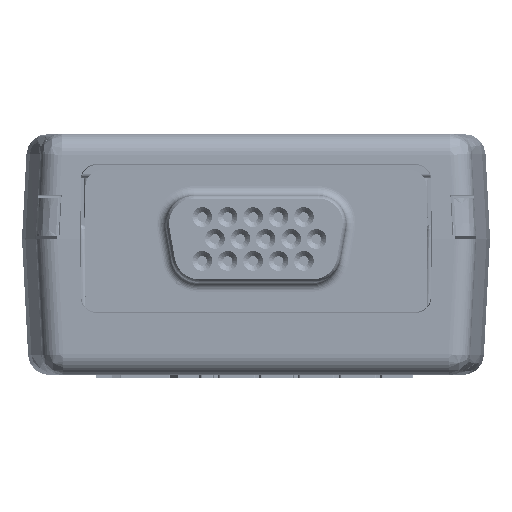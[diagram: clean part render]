
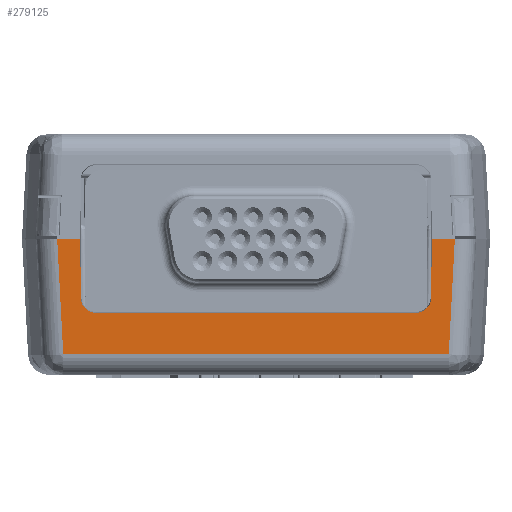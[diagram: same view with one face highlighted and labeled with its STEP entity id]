
A CAD part, left-side view. The second image highlights one B-rep face of the part: STEP entity #279125.
In plain terms, the highlighted planar face has unit normal (-1, 0, -0.018) as drawn and (0, 1, -0.017) by its records, which use the part's own axes.
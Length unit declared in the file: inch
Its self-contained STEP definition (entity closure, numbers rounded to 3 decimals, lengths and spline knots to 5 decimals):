
#200 = VERTEX_POINT ( 'NONE', #112768 ) ;
#1927 = CARTESIAN_POINT ( 'NONE',  ( 0., 6.29, 0.30906 ) ) ;
#2175 = ORIENTED_EDGE ( 'NONE', *, *, #15595, .T. ) ;
#5522 = CARTESIAN_POINT ( 'NONE',  ( 25.09876, 6.28284, -0.10135 ) ) ;
#15016 = CARTESIAN_POINT ( 'NONE',  ( 23.80214, 6.28579, 0.06809 ) ) ;
#15595 = EDGE_CURVE ( 'NONE', #144275, #190273, #301658, .T. ) ;
#18077 = CARTESIAN_POINT ( 'NONE',  ( 23.83216, 6.28541, 0.046 ) ) ;
#19779 = CARTESIAN_POINT ( 'NONE',  ( 23.79057, 6.2864, 0.1025 ) ) ;
#21150 = VECTOR ( 'NONE', #72855, 39.37008 ) ;
#22667 = ORIENTED_EDGE ( 'NONE', *, *, #150824, .T. ) ;
#28020 = ORIENTED_EDGE ( 'NONE', *, *, #203920, .T. ) ;
#28436 = CARTESIAN_POINT ( 'NONE',  ( 0., 6.28284, -0.10135 ) ) ;
#28841 = CARTESIAN_POINT ( 'NONE',  ( 23.70773, 6.29, 0.30906 ) ) ;
#34542 = VERTEX_POINT ( 'NONE', #45604 ) ;
#37587 = CARTESIAN_POINT ( 'NONE',  ( 23.81751, 6.28552, 0.05216 ) ) ;
#39193 = ORIENTED_EDGE ( 'NONE', *, *, #116417, .F. ) ;
#42062 = VECTOR ( 'NONE', #76592, 39.37008 ) ;
#45604 = CARTESIAN_POINT ( 'NONE',  ( 23.84707, 6.28541, 0.046 ) ) ;
#49038 = CARTESIAN_POINT ( 'NONE',  ( 24.99569, 6.28544, 0.04754 ) ) ;
#51194 = CARTESIAN_POINT ( 'NONE',  ( 0., 6.29, 0.30906 ) ) ;
#54040 = DIRECTION ( 'NONE',  ( 0., 0.017, 1. ) ) ;
#54793 = CARTESIAN_POINT ( 'NONE',  ( 0., 6.29, 0.30897 ) ) ;
#58281 = CARTESIAN_POINT ( 'NONE',  ( 0., 6.29, 0.30906 ) ) ;
#58412 = VERTEX_POINT ( 'NONE', #207807 ) ;
#61043 = CARTESIAN_POINT ( 'NONE',  ( 23.79808, 6.2859, 0.07424 ) ) ;
#61965 = VECTOR ( 'NONE', #138932, 39.37008 ) ;
#62537 = VECTOR ( 'NONE', #54040, 39.37008 ) ;
#64077 = CARTESIAN_POINT ( 'NONE',  ( 23.79636, 6.28596, 0.07749 ) ) ;
#64735 = ORIENTED_EDGE ( 'NONE', *, *, #161486, .F. ) ;
#67586 = ORIENTED_EDGE ( 'NONE', *, *, #206827, .T. ) ;
#71297 = LINE ( 'NONE', #51194, #42062 ) ;
#71975 = LINE ( 'NONE', #1927, #134036 ) ;
#72441 = CARTESIAN_POINT ( 'NONE',  ( 25.01827, 6.28565, 0.05994 ) ) ;
#72855 = DIRECTION ( 'NONE',  ( -0.052, 0.017, 0.998 ) ) ;
#74574 = CARTESIAN_POINT ( 'NONE',  ( 23.72924, 6.28284, -0.10135 ) ) ;
#76592 = DIRECTION ( 'NONE',  ( 1., 0., 0. ) ) ;
#77796 = B_SPLINE_CURVE_WITH_KNOTS ( 'NONE', 3,
 ( #118414, #282007, #49038, #259532, #186882, #232959, #72441, #167542, #141942, #214479 ),
 .UNSPECIFIED., .F., .F.,
 ( 4, 2, 2, 2, 4 ),
 ( 0., 0.00056, 0.00084, 0.00112, 0.00224 ),
 .UNSPECIFIED. ) ;
#78176 = EDGE_CURVE ( 'NONE', #58412, #97525, #99095, .T. ) ;
#80201 = DIRECTION ( 'NONE',  ( 0., 1., -0.017 ) ) ;
#80634 = DIRECTION ( 'NONE',  ( -1., 0., 0. ) ) ;
#88706 = CARTESIAN_POINT ( 'NONE',  ( 23.79049, 6.29, 0.30906 ) ) ;
#89819 = CARTESIAN_POINT ( 'NONE',  ( 23.79049, 6.29, 0.30906 ) ) ;
#92083 = CARTESIAN_POINT ( 'NONE',  ( 25.03751, 6.29, 0.30906 ) ) ;
#97525 = VERTEX_POINT ( 'NONE', #92083 ) ;
#99095 = LINE ( 'NONE', #102930, #62537 ) ;
#101522 = EDGE_CURVE ( 'NONE', #34542, #280755, #285120, .T. ) ;
#102746 = EDGE_CURVE ( 'NONE', #280755, #58412, #77796, .T. ) ;
#102930 = CARTESIAN_POINT ( 'NONE',  ( 25.03743, 6.2864, 0.1025 ) ) ;
#106313 = VERTEX_POINT ( 'NONE', #149703 ) ;
#112768 = CARTESIAN_POINT ( 'NONE',  ( 25.12027, 6.29, 0.30906 ) ) ;
#116417 = EDGE_CURVE ( 'NONE', #144275, #200, #273982, .T. ) ;
#118414 = CARTESIAN_POINT ( 'NONE',  ( 24.98093, 6.28541, 0.046 ) ) ;
#120297 = DIRECTION ( 'NONE',  ( -1., 0., 0. ) ) ;
#123188 = PLANE ( 'NONE',  #132129 ) ;
#131436 = CARTESIAN_POINT ( 'NONE',  ( 23.80451, 6.28574, 0.06517 ) ) ;
#132129 = AXIS2_PLACEMENT_3D ( 'NONE', #54793, #80201, #176309 ) ;
#132853 = CARTESIAN_POINT ( 'NONE',  ( 23.58231, 6.29, 0.30906 ) ) ;
#134036 = VECTOR ( 'NONE', #290925, 39.37008 ) ;
#136742 = LINE ( 'NONE', #132853, #283165 ) ;
#138932 = DIRECTION ( 'NONE',  ( 0.052, 0.017, 0.998 ) ) ;
#141942 = CARTESIAN_POINT ( 'NONE',  ( 25.03743, 6.28614, 0.08759 ) ) ;
#144275 = VERTEX_POINT ( 'NONE', #5522 ) ;
#148725 = VECTOR ( 'NONE', #80634, 39.37008 ) ;
#149703 = CARTESIAN_POINT ( 'NONE',  ( 25.11272, 6.29, 0.30906 ) ) ;
#150824 = EDGE_CURVE ( 'NONE', #190273, #226571, #182089, .T. ) ;
#152707 = EDGE_CURVE ( 'NONE', #226571, #277515, #136742, .T. ) ;
#161486 = EDGE_CURVE ( 'NONE', #106313, #97525, #71975, .T. ) ;
#167542 = CARTESIAN_POINT ( 'NONE',  ( 25.03128, 6.28588, 0.07294 ) ) ;
#172197 = CARTESIAN_POINT ( 'NONE',  ( 23.71528, 6.29, 0.30906 ) ) ;
#173456 = ORIENTED_EDGE ( 'NONE', *, *, #101522, .T. ) ;
#173459 = VERTEX_POINT ( 'NONE', #19779 ) ;
#176309 = DIRECTION ( 'NONE',  ( 0., 0.017, 1. ) ) ;
#178632 = ORIENTED_EDGE ( 'NONE', *, *, #78176, .T. ) ;
#179562 = CARTESIAN_POINT ( 'NONE',  ( 23.79057, 6.28627, 0.09504 ) ) ;
#182089 = LINE ( 'NONE', #259945, #21150 ) ;
#186882 = CARTESIAN_POINT ( 'NONE',  ( 25.00919, 6.28554, 0.05351 ) ) ;
#188898 = FACE_OUTER_BOUND ( 'NONE', #198532, .T. ) ;
#190273 = VERTEX_POINT ( 'NONE', #74574 ) ;
#191423 = ORIENTED_EDGE ( 'NONE', *, *, #102746, .T. ) ;
#195226 = VECTOR ( 'NONE', #206334, 39.37008 ) ;
#198532 = EDGE_LOOP ( 'NONE', ( #173456, #191423, #178632, #64735, #256458, #39193, #2175, #22667, #200889, #282649, #28020, #67586 ) ) ;
#200889 = ORIENTED_EDGE ( 'NONE', *, *, #152707, .T. ) ;
#200969 = CARTESIAN_POINT ( 'NONE',  ( 23.79057, 6.2864, 0.1025 ) ) ;
#201929 = CARTESIAN_POINT ( 'NONE',  ( 23.79211, 6.28614, 0.08775 ) ) ;
#203920 = EDGE_CURVE ( 'NONE', #224780, #173459, #220800, .T. ) ;
#206334 = DIRECTION ( 'NONE',  ( 0., -0.017, -1. ) ) ;
#206660 = VECTOR ( 'NONE', #120297, 39.37008 ) ;
#206827 = EDGE_CURVE ( 'NONE', #173459, #34542, #261945, .T. ) ;
#207807 = CARTESIAN_POINT ( 'NONE',  ( 25.03743, 6.2864, 0.1025 ) ) ;
#214479 = CARTESIAN_POINT ( 'NONE',  ( 25.03743, 6.2864, 0.1025 ) ) ;
#220800 = LINE ( 'NONE', #89819, #195226 ) ;
#224780 = VERTEX_POINT ( 'NONE', #88706 ) ;
#225987 = DIRECTION ( 'NONE',  ( 1., 0., 0. ) ) ;
#226571 = VERTEX_POINT ( 'NONE', #28841 ) ;
#230559 = EDGE_CURVE ( 'NONE', #106313, #200, #71297, .T. ) ;
#232959 = CARTESIAN_POINT ( 'NONE',  ( 25.01535, 6.28561, 0.05758 ) ) ;
#252139 = CARTESIAN_POINT ( 'NONE',  ( 23.84707, 6.28541, 0.046 ) ) ;
#255547 = CARTESIAN_POINT ( 'NONE',  ( 25.05148, 6.26709, -1.00352 ) ) ;
#256458 = ORIENTED_EDGE ( 'NONE', *, *, #230559, .T. ) ;
#259532 = CARTESIAN_POINT ( 'NONE',  ( 25.00594, 6.28551, 0.05179 ) ) ;
#259945 = CARTESIAN_POINT ( 'NONE',  ( 23.72924, 6.28284, -0.10135 ) ) ;
#260182 = CARTESIAN_POINT ( 'NONE',  ( 24.98093, 6.28541, 0.046 ) ) ;
#260922 = EDGE_CURVE ( 'NONE', #224780, #277515, #295056, .T. ) ;
#261945 = B_SPLINE_CURVE_WITH_KNOTS ( 'NONE', 3,
 ( #200969, #179562, #201929, #64077, #61043, #15016, #131436, #37587, #18077, #252139 ),
 .UNSPECIFIED., .F., .F.,
 ( 4, 2, 2, 2, 4 ),
 ( 0., 0.00056, 0.00084, 0.00112, 0.00224 ),
 .UNSPECIFIED. ) ;
#273982 = LINE ( 'NONE', #255547, #61965 ) ;
#277515 = VERTEX_POINT ( 'NONE', #172197 ) ;
#277830 = VECTOR ( 'NONE', #283658, 39.37008 ) ;
#279125 = ADVANCED_FACE ( 'NONE', ( #188898 ), #123188, .T. ) ;
#280755 = VERTEX_POINT ( 'NONE', #285787 ) ;
#282007 = CARTESIAN_POINT ( 'NONE',  ( 24.98839, 6.28541, 0.046 ) ) ;
#282649 = ORIENTED_EDGE ( 'NONE', *, *, #260922, .F. ) ;
#283165 = VECTOR ( 'NONE', #225987, 39.37008 ) ;
#283658 = DIRECTION ( 'NONE',  ( 1., 0., 0. ) ) ;
#285120 = LINE ( 'NONE', #260182, #277830 ) ;
#285787 = CARTESIAN_POINT ( 'NONE',  ( 24.98093, 6.28541, 0.046 ) ) ;
#290925 = DIRECTION ( 'NONE',  ( -1., 0., 0. ) ) ;
#295056 = LINE ( 'NONE', #58281, #148725 ) ;
#301658 = LINE ( 'NONE', #28436, #206660 ) ;
